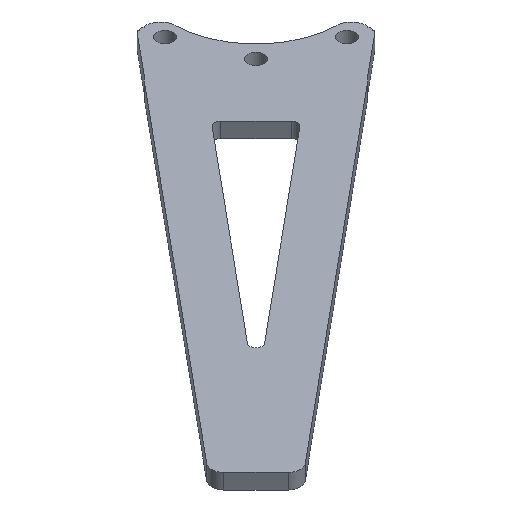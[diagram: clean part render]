
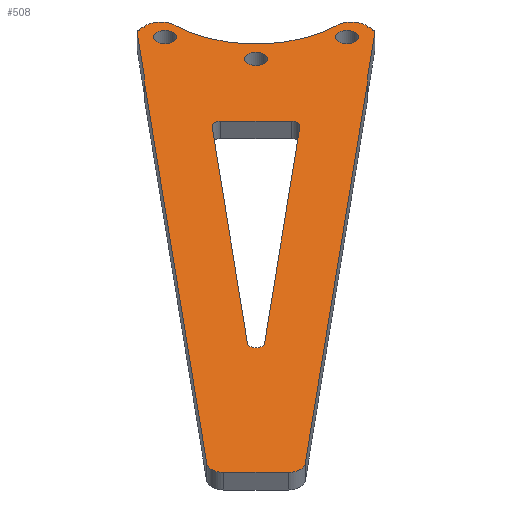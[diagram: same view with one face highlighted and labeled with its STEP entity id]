
A CAD part, isometric view. The second image highlights one B-rep face of the part: STEP entity #508.
In plain terms, the highlighted planar face has unit normal (0, 0, 1).
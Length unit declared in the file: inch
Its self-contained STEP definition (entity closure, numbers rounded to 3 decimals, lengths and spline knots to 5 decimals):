
#34=FACE_BOUND('',#71,.T.);
#35=FACE_BOUND('',#72,.T.);
#36=FACE_BOUND('',#73,.T.);
#37=FACE_BOUND('',#74,.T.);
#39=FACE_OUTER_BOUND('',#70,.T.);
#70=EDGE_LOOP('',(#370,#371,#372,#373,#374,#375,#376,#377,#378,#379,#380,
#381,#382,#383,#384,#385));
#71=EDGE_LOOP('',(#386,#387,#388,#389,#390,#391));
#72=EDGE_LOOP('',(#392));
#73=EDGE_LOOP('',(#393));
#74=EDGE_LOOP('',(#394));
#115=CIRCLE('',#565,0.1);
#116=CIRCLE('',#566,0.1);
#117=CIRCLE('',#567,1.);
#118=CIRCLE('',#568,0.05);
#119=CIRCLE('',#569,0.125);
#120=CIRCLE('',#570,0.68458);
#121=CIRCLE('',#571,0.125);
#122=CIRCLE('',#572,0.05);
#123=CIRCLE('',#573,1.);
#124=CIRCLE('',#574,0.05);
#125=CIRCLE('',#575,0.05);
#126=CIRCLE('',#576,0.05);
#127=CIRCLE('',#577,0.068);
#128=CIRCLE('',#578,0.068);
#129=CIRCLE('',#579,0.068);
#140=LINE('',#821,#185);
#141=LINE('',#825,#186);
#142=LINE('',#829,#187);
#143=LINE('',#833,#188);
#144=LINE('',#837,#189);
#145=LINE('',#845,#190);
#146=LINE('',#849,#191);
#147=LINE('',#853,#192);
#148=LINE('',#857,#193);
#149=LINE('',#861,#194);
#185=VECTOR('',#651,3.83596);
#186=VECTOR('',#654,0.375);
#187=VECTOR('',#657,3.83596);
#188=VECTOR('',#660,0.43129);
#189=VECTOR('',#663,0.04396);
#190=VECTOR('',#670,0.04396);
#191=VECTOR('',#673,0.43129);
#192=VECTOR('',#676,2.19809);
#193=VECTOR('',#679,2.19809);
#194=VECTOR('',#682,0.41248);
#245=VERTEX_POINT('',#819);
#246=VERTEX_POINT('',#820);
#247=VERTEX_POINT('',#822);
#248=VERTEX_POINT('',#824);
#249=VERTEX_POINT('',#826);
#250=VERTEX_POINT('',#828);
#251=VERTEX_POINT('',#830);
#252=VERTEX_POINT('',#832);
#253=VERTEX_POINT('',#834);
#254=VERTEX_POINT('',#836);
#255=VERTEX_POINT('',#838);
#256=VERTEX_POINT('',#840);
#257=VERTEX_POINT('',#842);
#258=VERTEX_POINT('',#844);
#259=VERTEX_POINT('',#846);
#260=VERTEX_POINT('',#848);
#261=VERTEX_POINT('',#851);
#262=VERTEX_POINT('',#852);
#263=VERTEX_POINT('',#854);
#264=VERTEX_POINT('',#856);
#265=VERTEX_POINT('',#858);
#266=VERTEX_POINT('',#860);
#267=VERTEX_POINT('',#863);
#268=VERTEX_POINT('',#865);
#269=VERTEX_POINT('',#867);
#295=EDGE_CURVE('',#245,#246,#140,.T.);
#296=EDGE_CURVE('',#246,#247,#115,.T.);
#297=EDGE_CURVE('',#247,#248,#141,.T.);
#298=EDGE_CURVE('',#248,#249,#116,.T.);
#299=EDGE_CURVE('',#249,#250,#142,.T.);
#300=EDGE_CURVE('',#250,#251,#117,.T.);
#301=EDGE_CURVE('',#251,#252,#143,.T.);
#302=EDGE_CURVE('',#252,#253,#118,.T.);
#303=EDGE_CURVE('',#253,#254,#144,.T.);
#304=EDGE_CURVE('',#254,#255,#119,.T.);
#305=EDGE_CURVE('',#255,#256,#120,.T.);
#306=EDGE_CURVE('',#256,#257,#121,.T.);
#307=EDGE_CURVE('',#257,#258,#145,.T.);
#308=EDGE_CURVE('',#258,#259,#122,.T.);
#309=EDGE_CURVE('',#259,#260,#146,.T.);
#310=EDGE_CURVE('',#260,#245,#123,.T.);
#311=EDGE_CURVE('',#261,#262,#147,.T.);
#312=EDGE_CURVE('',#261,#263,#124,.F.);
#313=EDGE_CURVE('',#264,#263,#148,.T.);
#314=EDGE_CURVE('',#264,#265,#125,.F.);
#315=EDGE_CURVE('',#266,#265,#149,.T.);
#316=EDGE_CURVE('',#266,#262,#126,.F.);
#317=EDGE_CURVE('',#267,#267,#127,.T.);
#318=EDGE_CURVE('',#268,#268,#128,.T.);
#319=EDGE_CURVE('',#269,#269,#129,.T.);
#370=ORIENTED_EDGE('',*,*,#295,.T.);
#371=ORIENTED_EDGE('',*,*,#296,.T.);
#372=ORIENTED_EDGE('',*,*,#297,.T.);
#373=ORIENTED_EDGE('',*,*,#298,.T.);
#374=ORIENTED_EDGE('',*,*,#299,.T.);
#375=ORIENTED_EDGE('',*,*,#300,.T.);
#376=ORIENTED_EDGE('',*,*,#301,.T.);
#377=ORIENTED_EDGE('',*,*,#302,.T.);
#378=ORIENTED_EDGE('',*,*,#303,.T.);
#379=ORIENTED_EDGE('',*,*,#304,.T.);
#380=ORIENTED_EDGE('',*,*,#305,.T.);
#381=ORIENTED_EDGE('',*,*,#306,.T.);
#382=ORIENTED_EDGE('',*,*,#307,.T.);
#383=ORIENTED_EDGE('',*,*,#308,.T.);
#384=ORIENTED_EDGE('',*,*,#309,.T.);
#385=ORIENTED_EDGE('',*,*,#310,.T.);
#386=ORIENTED_EDGE('',*,*,#311,.F.);
#387=ORIENTED_EDGE('',*,*,#312,.T.);
#388=ORIENTED_EDGE('',*,*,#313,.F.);
#389=ORIENTED_EDGE('',*,*,#314,.T.);
#390=ORIENTED_EDGE('',*,*,#315,.F.);
#391=ORIENTED_EDGE('',*,*,#316,.T.);
#392=ORIENTED_EDGE('',*,*,#317,.F.);
#393=ORIENTED_EDGE('',*,*,#318,.F.);
#394=ORIENTED_EDGE('',*,*,#319,.F.);
#496=PLANE('',#564);
#508=ADVANCED_FACE('',(#39,#34,#35,#36,#37),#496,.T.);
#564=AXIS2_PLACEMENT_3D('',#818,#649,#650);
#565=AXIS2_PLACEMENT_3D('',#823,#652,#653);
#566=AXIS2_PLACEMENT_3D('',#827,#655,#656);
#567=AXIS2_PLACEMENT_3D('',#831,#658,#659);
#568=AXIS2_PLACEMENT_3D('',#835,#661,#662);
#569=AXIS2_PLACEMENT_3D('',#839,#664,#665);
#570=AXIS2_PLACEMENT_3D('',#841,#666,#667);
#571=AXIS2_PLACEMENT_3D('',#843,#668,#669);
#572=AXIS2_PLACEMENT_3D('',#847,#671,#672);
#573=AXIS2_PLACEMENT_3D('',#850,#674,#675);
#574=AXIS2_PLACEMENT_3D('',#855,#677,#678);
#575=AXIS2_PLACEMENT_3D('',#859,#680,#681);
#576=AXIS2_PLACEMENT_3D('',#862,#683,#684);
#577=AXIS2_PLACEMENT_3D('',#864,#685,#686);
#578=AXIS2_PLACEMENT_3D('',#866,#687,#688);
#579=AXIS2_PLACEMENT_3D('',#868,#689,#690);
#649=DIRECTION('center_axis',(0.,0.,1.));
#650=DIRECTION('ref_axis',(1.,0.,0.));
#651=DIRECTION('',(-0.638,-0.77,0.));
#652=DIRECTION('center_axis',(0.,0.,1.));
#653=DIRECTION('ref_axis',(1.,0.,0.));
#654=DIRECTION('',(0.707,-0.707,0.));
#655=DIRECTION('center_axis',(0.,0.,1.));
#656=DIRECTION('ref_axis',(1.,0.,0.));
#657=DIRECTION('',(0.77,0.638,0.));
#658=DIRECTION('center_axis',(0.,0.,1.));
#659=DIRECTION('ref_axis',(1.,0.,0.));
#660=DIRECTION('',(0.77,0.638,0.));
#661=DIRECTION('center_axis',(0.,0.,1.));
#662=DIRECTION('ref_axis',(1.,0.,0.));
#663=DIRECTION('',(0.076,0.997,0.));
#664=DIRECTION('center_axis',(0.,0.,1.));
#665=DIRECTION('ref_axis',(1.,0.,0.));
#666=DIRECTION('center_axis',(0.,0.,-1.));
#667=DIRECTION('ref_axis',(1.,0.,0.));
#668=DIRECTION('center_axis',(0.,0.,1.));
#669=DIRECTION('ref_axis',(1.,0.,0.));
#670=DIRECTION('',(-0.997,-0.076,0.));
#671=DIRECTION('center_axis',(0.,0.,1.));
#672=DIRECTION('ref_axis',(1.,0.,0.));
#673=DIRECTION('',(-0.638,-0.77,0.));
#674=DIRECTION('center_axis',(0.,0.,1.));
#675=DIRECTION('ref_axis',(1.,0.,0.));
#676=DIRECTION('',(0.77,0.638,0.));
#677=DIRECTION('center_axis',(0.,0.,1.));
#678=DIRECTION('ref_axis',(1.,0.001,0.));
#679=DIRECTION('',(-0.638,-0.77,0.));
#680=DIRECTION('center_axis',(0.,0.,1.));
#681=DIRECTION('ref_axis',(1.,0.001,0.));
#682=DIRECTION('',(-0.707,0.707,0.));
#683=DIRECTION('center_axis',(0.,0.,1.));
#684=DIRECTION('ref_axis',(1.,0.001,0.));
#685=DIRECTION('center_axis',(0.,0.,1.));
#686=DIRECTION('ref_axis',(1.,0.,0.));
#687=DIRECTION('center_axis',(0.,0.,1.));
#688=DIRECTION('ref_axis',(1.,0.,0.));
#689=DIRECTION('center_axis',(0.,0.,1.));
#690=DIRECTION('ref_axis',(1.,0.,0.));
#818=CARTESIAN_POINT('Origin',(0.36609,0.31105,0.31139));
#819=CARTESIAN_POINT('',(-0.86904,-0.00912,0.31139));
#820=CARTESIAN_POINT('',(-3.31501,-2.96409,0.31139));
#821=CARTESIAN_POINT('',(-0.86904,-0.00912,0.31139));
#822=CARTESIAN_POINT('',(-3.30868,-3.09856,0.31139));
#823=CARTESIAN_POINT('Origin',(-3.23797,-3.02785,0.31139));
#824=CARTESIAN_POINT('',(-3.04352,-3.36373,0.31139));
#825=CARTESIAN_POINT('',(-3.30868,-3.09856,0.31139));
#826=CARTESIAN_POINT('',(-2.90904,-3.37005,0.31139));
#827=CARTESIAN_POINT('Origin',(-2.97281,-3.29301,0.31139));
#828=CARTESIAN_POINT('',(0.04592,-0.92409,0.31139));
#829=CARTESIAN_POINT('',(-2.90904,-3.37005,0.31139));
#830=CARTESIAN_POINT('',(0.11539,-0.86086,0.31139));
#831=CARTESIAN_POINT('Origin',(-0.59172,-0.15375,0.31139));
#832=CARTESIAN_POINT('',(0.44763,-0.58585,0.31139));
#833=CARTESIAN_POINT('',(0.11539,-0.86086,0.31139));
#834=CARTESIAN_POINT('',(0.4656,-0.55114,0.31139));
#835=CARTESIAN_POINT('Origin',(0.41574,-0.54733,0.31139));
#836=CARTESIAN_POINT('',(0.46894,-0.5073,0.31139));
#837=CARTESIAN_POINT('',(0.4656,-0.55114,0.31139));
#838=CARTESIAN_POINT('',(0.33797,-0.37296,0.31139));
#839=CARTESIAN_POINT('Origin',(0.3443,-0.4978,0.31139));
#840=CARTESIAN_POINT('',(-0.31791,0.28292,0.31139));
#841=CARTESIAN_POINT('Origin',(0.36609,0.31105,0.31139));
#842=CARTESIAN_POINT('',(-0.45226,0.4139,0.31139));
#843=CARTESIAN_POINT('Origin',(-0.44275,0.28926,0.31139));
#844=CARTESIAN_POINT('',(-0.49609,0.41056,0.31139));
#845=CARTESIAN_POINT('',(-0.45226,0.4139,0.31139));
#846=CARTESIAN_POINT('',(-0.53081,0.39258,0.31139));
#847=CARTESIAN_POINT('Origin',(-0.49229,0.3607,0.31139));
#848=CARTESIAN_POINT('',(-0.80582,0.06035,0.31139));
#849=CARTESIAN_POINT('',(-0.53081,0.39258,0.31139));
#850=CARTESIAN_POINT('Origin',(-0.09871,-0.64676,0.31139));
#851=CARTESIAN_POINT('',(-2.21945,-2.34489,0.31139));
#852=CARTESIAN_POINT('',(-0.52619,-0.9433,0.31139));
#853=CARTESIAN_POINT('',(-2.21945,-2.34489,0.31139));
#854=CARTESIAN_POINT('',(-2.28985,-2.27449,0.31139));
#855=CARTESIAN_POINT('Origin',(-2.25133,-2.30637,0.31139));
#856=CARTESIAN_POINT('',(-0.88825,-0.58123,0.31139));
#857=CARTESIAN_POINT('',(-0.88825,-0.58123,0.31139));
#858=CARTESIAN_POINT('',(-0.81438,-0.57776,0.31139));
#859=CARTESIAN_POINT('Origin',(-0.84974,-0.61311,0.31139));
#860=CARTESIAN_POINT('',(-0.52271,-0.86943,0.31139));
#861=CARTESIAN_POINT('',(-0.52271,-0.86943,0.31139));
#862=CARTESIAN_POINT('Origin',(-0.55807,-0.90478,0.31139));
#863=CARTESIAN_POINT('',(0.37428,-0.49876,0.31139));
#864=CARTESIAN_POINT('Origin',(0.30628,-0.49876,0.31139));
#865=CARTESIAN_POINT('',(-0.15605,-0.27909,0.31139));
#866=CARTESIAN_POINT('Origin',(-0.22405,-0.27909,0.31139));
#867=CARTESIAN_POINT('',(-0.37572,0.25124,0.31139));
#868=CARTESIAN_POINT('Origin',(-0.44372,0.25124,0.31139));
